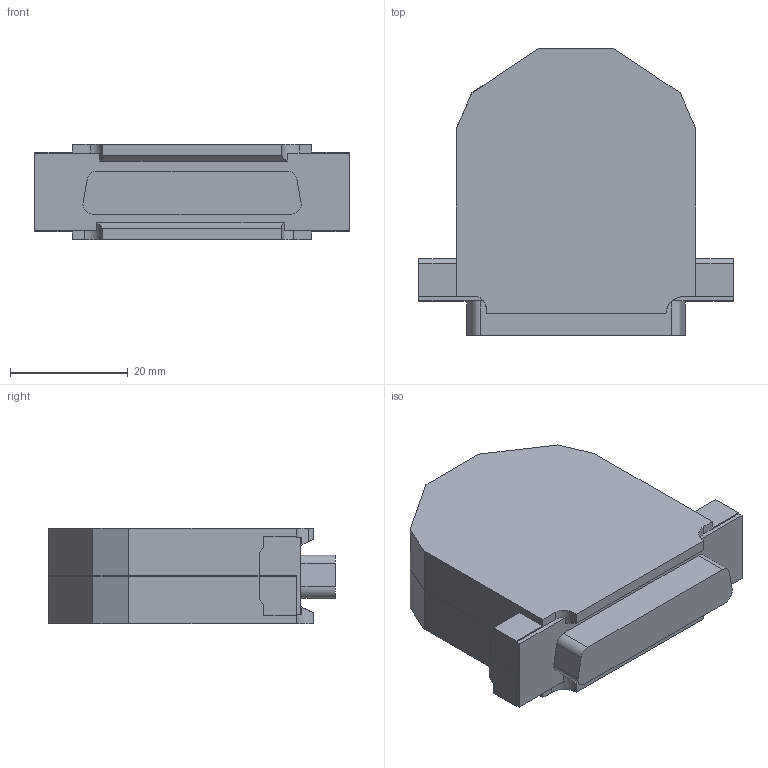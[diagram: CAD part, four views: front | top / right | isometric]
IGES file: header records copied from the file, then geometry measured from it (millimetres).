
Start section:  PTC IGES file: dsub-backshell-25pos.igs
Global section: file name: dsub-backshell-25pos.igs; native system: Pro/ENGINEER by Parametric Technology Corporation; preprocessor: 2006080; author: chrisj; organization: Unknown; date: 070126.141910; units: inch
Bounding box: 53.36 x 48.64 x 16.21 mm (x, y, z)
Surface area: 12865.1 mm2 (no closed solid volume)
Topology: 0 solids, 0 shells, 183 faces, 908 edges, 908 vertices
Faces by surface type: bspline 109, revolution 70, extrusion 4
